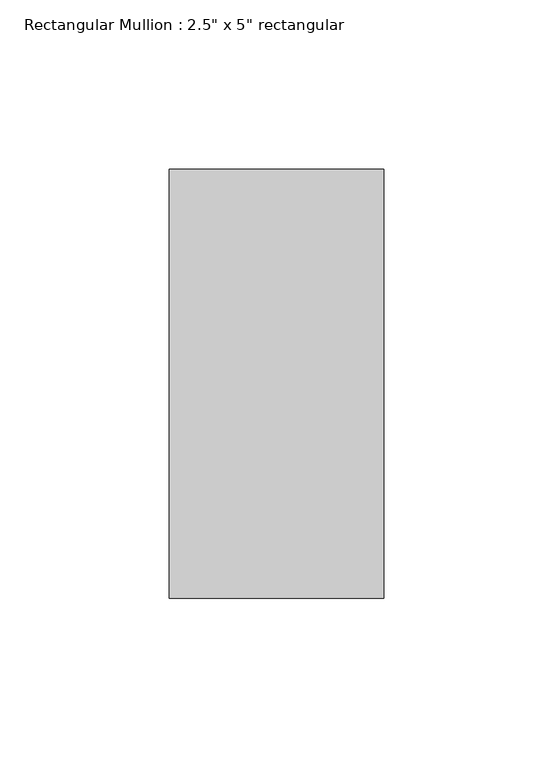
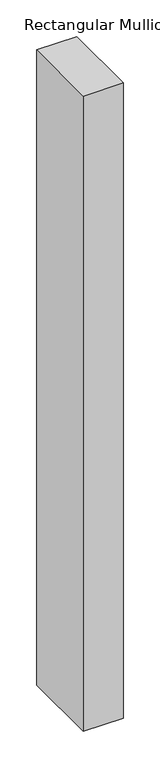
"""IFC4 building model written with IfcOpenShell, lengths in millimetres: member geometry."""

from ifc_helpers import new_model, si_unit, frame, origin, place, context, project, spatial, polyline, outline, extrude, source, transform, mapped, element, save


def member_d13a5c2f(model_context):
    return source(origin(), model_context, "Body", "SweptSolid", [
        extrude(outline(polyline([(0.0, 63.5), (0.0, -63.5), (-63.5, -63.5), (-63.5, 63.5), (0.0, 63.5)])), frame((0.0, 0.0, -1060.45), z_axis=(0.0, 0.0, 1.0), x_axis=(1.0, 0.0, 0.0)), (0.0, 0.0, 1.0), 1060.45),
    ])


if __name__ == "__main__":
    model = new_model("IFC4")
    model_context = context("Model", 3, world=origin())
    ifc_project = project(units=[si_unit("LENGTHUNIT", "METRE", prefix="MILLI")], contexts=[model_context])
    site = spatial("IfcSite", under=ifc_project)
    building = spatial("IfcBuilding", under=site)
    placement = place(None, origin())
    member_shape = member_d13a5c2f(model_context)
    element("IfcMember", 1, ObjectType="Rectangular Mullion : 2.5\" x 5\" rectangular", at=placement, inside=building, context=model_context, shape_type="MappedRepresentation", body=[
        mapped(member_shape, transform((0.0, 0.0, 0.0), x_axis=(1.0, 0.0, 0.0), y_axis=(0.0, 1.0, 0.0), z_axis=(0.0, 0.0, 1.0))),
    ])
    save(model, "model.ifc")
